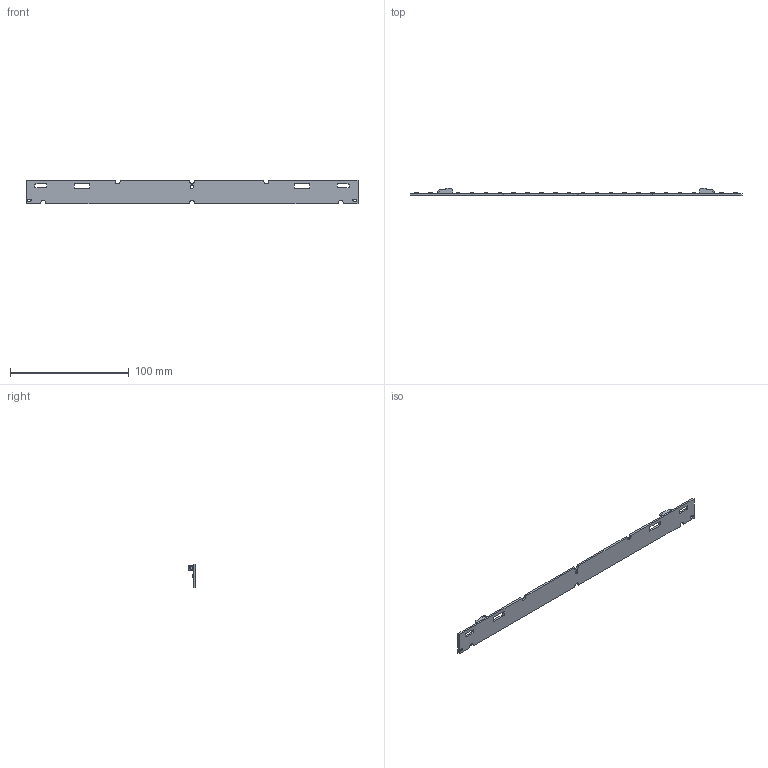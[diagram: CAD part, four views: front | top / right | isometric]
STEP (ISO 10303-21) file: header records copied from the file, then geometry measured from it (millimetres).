
FILE_DESCRIPTION((''),'2;1');
FILE_NAME('ASM_KONEKTORI_DIODE_LOGO_ASM','2020-10-15T10:09:24',('msavic'),(''),'CREO PARAMETRIC BY PTC INC, 2016510','CREO PARAMETRIC BY PTC INC, 2016510','');
FILE_SCHEMA(('AUTOMOTIVE_DESIGN { 1 0 10303 214 1 1 1 1 }'));
Products named in the file (12): BAZA-WU-M-658; PRT0001; VSO-LOGO-5MM_3; VSO-LOGO-5MM001_2_1; BUILT-IN_LED_MODULE-5MM004_2; BUILT-IN_LED_MODULE-5MM003_2; BUILT-IN_LED_MODULE-5MM002_2; BUILT-IN_LED_MODULE-5MM001_2; CE-ZEICHEN-6MM_2; CE-ZEICHEN-6MM001_2; 2060-452_1_2_3_4; ASM_KONEKTORI_DIODE_LOGO_ASM
Assembly tree (36 placements, depth 2):
  ASM_KONEKTORI_DIODE_LOGO_ASM
    BAZA-WU-M-658
    PRT0001  x24
    VSO-LOGO-5MM_3
    VSO-LOGO-5MM001_2_1
    BUILT-IN_LED_MODULE-5MM004_2
    BUILT-IN_LED_MODULE-5MM003_2
    BUILT-IN_LED_MODULE-5MM002_2
    BUILT-IN_LED_MODULE-5MM001_2  x2
    CE-ZEICHEN-6MM_2
    CE-ZEICHEN-6MM001_2
    2060-452_1_2_3_4  x2
Bounding box: 279 x 5.95 x 20 mm (x, y, z)
Volume: 8952.9 mm3; surface area: 13298.6 mm2
Topology: 36 solids, 36 shells, 6098 faces, 17187 edges, 11378 vertices
Faces by surface type: plane 4711, cylinder 1279, bspline 96, extrusion 10, sphere 2
Entity records: 121069 total; most frequent: CARTESIAN_POINT 17872, ORIENTED_EDGE 17096, DIRECTION 15019, EDGE_CURVE 8548, VECTOR 8217, LINE 8207, VERTEX_POINT 5696, PRESENTATION_STYLE_ASSIGNMENT 3407
